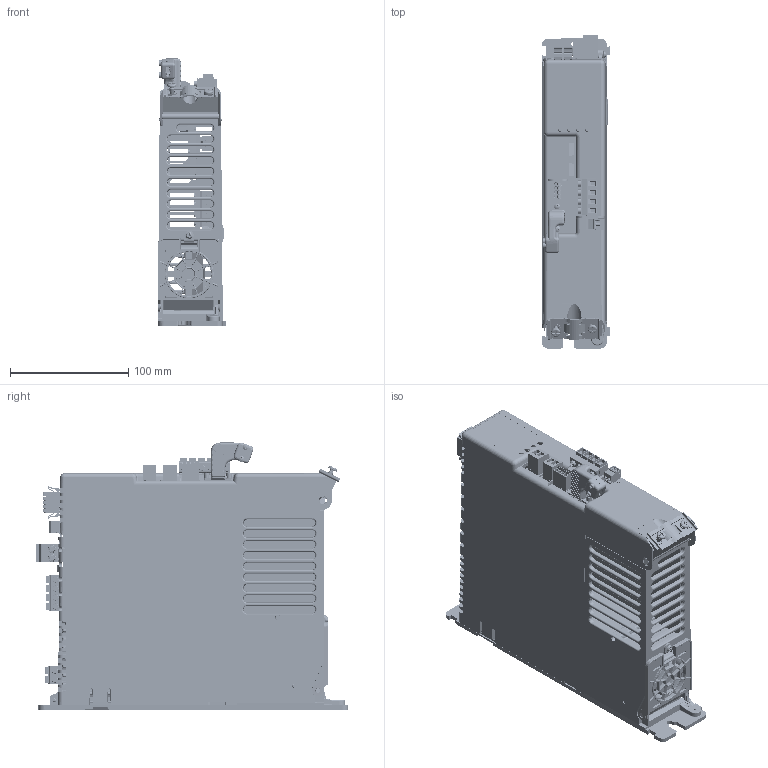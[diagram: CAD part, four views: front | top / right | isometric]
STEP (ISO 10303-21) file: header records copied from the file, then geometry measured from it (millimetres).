
FILE_DESCRIPTION((''),'2;1');
FILE_NAME('10000155362_ASM','2012-11-15T',('sramali'),('Rockwell Automation'),'PRO/ENGINEER BY PARAMETRIC TECHNOLOGY CORPORATION, 2010140','PRO/ENGINEER BY PARAMETRIC TECHNOLOGY CORPORATION, 2010140','');
FILE_SCHEMA(('CONFIG_CONTROL_DESIGN'));
Products named in the file (46): 10000151805; 10000151806; 10000154886; 10000146185; 10000155355; 10000336071; 10000172254; 10000180720_ASM; 10000180725_ASM; 10000198705_ASM; 10000198692; 10000198693; 10000198696; 10000198697; 10000198700; 10000198699; 10000198695; 10000198702; 10000146187; 10000185310; 10000185307_ASM; 10000185308_ASM; 10000227046; 10000269716; 10000269717; 10000269722_ASM; 10000204789; 10000216969; 10000295294; 10000155320; 10000198694; PRT0002; CN_PN-91887; CN_PN-108813; CN_PN-108535; CN_PN-108537; HEADERCB_ASM; FR2PCBLAYOUT_; CN_PN-100670; CN_PN-99838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
Assembly tree (54 placements, depth 4):
  10000155362_ASM
    10000151805
    10000151806
    10000154886
    10000146185
    10000155355
    10000336071  x5
    10000172254
    10000180720_ASM
    10000180725_ASM
    10000198705_ASM
    10000198692
    10000198693  x2
    10000198696
    10000198697
    10000198700  x2
    10000198699
    10000198695
    10000198702
    10000185308_ASM
      10000146187
      10000185307_ASM
        10000185310
    10000269722_ASM
      10000227046
      10000269716
      10000269717
    10000204789
    10000216969
    10000295294
    10000155320
    10000198694
    HEADERCB_ASM
      PRT0002
      CN_PN-91887  x2
      CN_PN-108813
      CN_PN-108535
      CN_PN-108537
    FR2PCBHEADER_ASM
      FR2PCBLAYOUT_
      CN_PN-100670
      CN_PN-99838  x2
      CN_PN-100769
      CN_PN-100776
      CN_PN-100780
    RJ45-BLOCK-ADAPTER  x2
Bounding box: 57.8 x 264.91 x 226.16 mm (x, y, z)
Volume: 695627.9 mm3; surface area: 594816.3 mm2
Topology: 51 solids, 78 shells, 18670 faces, 50544 edges, 32309 vertices
Faces by surface type: plane 12413, cylinder 4371, bspline 790, cone 687, torus 308, sphere 101
Entity records: 609033 total; most frequent: CARTESIAN_POINT 185896, ORIENTED_EDGE 91802, DIRECTION 81511, EDGE_CURVE 45969, VECTOR 34225, LINE 34225, VERTEX_POINT 29392, AXIS2_PLACEMENT_3D 23643
